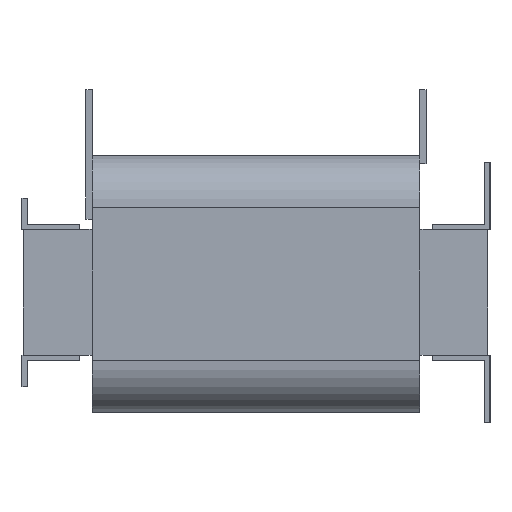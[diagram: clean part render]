
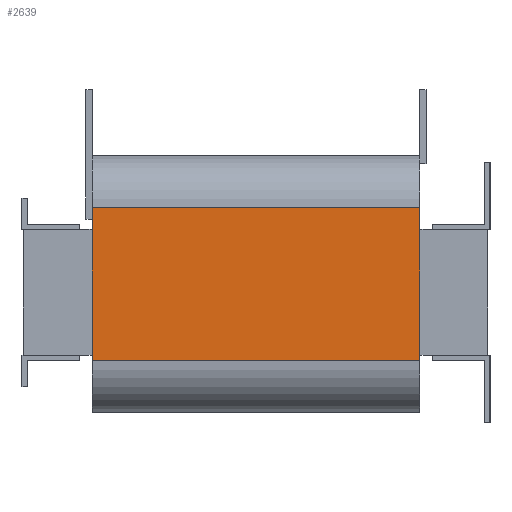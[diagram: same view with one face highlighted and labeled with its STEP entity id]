
A CAD part, left-side view. The second image highlights one B-rep face of the part: STEP entity #2639.
In plain terms, the highlighted planar face has unit normal (-1, 0, 0).
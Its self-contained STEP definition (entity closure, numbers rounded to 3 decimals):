
#114=PLANE('',#2843);
#243=FACE_OUTER_BOUND('',#393,.T.);
#393=EDGE_LOOP('',(#2263,#2264,#2265,#2266));
#670=LINE('',#4142,#996);
#689=LINE('',#4192,#1015);
#690=LINE('',#4195,#1016);
#691=LINE('',#4196,#1017);
#996=VECTOR('',#3383,10.);
#1015=VECTOR('',#3428,10.);
#1016=VECTOR('',#3431,10.);
#1017=VECTOR('',#3432,10.);
#1325=VERTEX_POINT('',#4139);
#1326=VERTEX_POINT('',#4141);
#1344=VERTEX_POINT('',#4190);
#1345=VERTEX_POINT('',#4194);
#1652=EDGE_CURVE('',#1325,#1326,#670,.T.);
#1678=EDGE_CURVE('',#1344,#1325,#689,.T.);
#1679=EDGE_CURVE('',#1344,#1345,#690,.T.);
#1680=EDGE_CURVE('',#1326,#1345,#691,.T.);
#2263=ORIENTED_EDGE('',*,*,#1678,.F.);
#2264=ORIENTED_EDGE('',*,*,#1679,.T.);
#2265=ORIENTED_EDGE('',*,*,#1680,.F.);
#2266=ORIENTED_EDGE('',*,*,#1652,.F.);
#2639=ADVANCED_FACE('',(#243),#114,.T.);
#2843=AXIS2_PLACEMENT_3D('',#4193,#3429,#3430);
#3383=DIRECTION('',(0.,0.,1.));
#3428=DIRECTION('',(0.,1.,0.));
#3429=DIRECTION('center_axis',(-1.,0.,0.));
#3430=DIRECTION('ref_axis',(0.,0.,1.));
#3431=DIRECTION('',(0.,0.,1.));
#3432=DIRECTION('',(0.,-1.,0.));
#4139=CARTESIAN_POINT('',(-280.,382.5,-65.5));
#4141=CARTESIAN_POINT('',(-280.,382.5,81.5));
#4142=CARTESIAN_POINT('',(-280.,382.5,-115.5));
#4190=CARTESIAN_POINT('',(-280.,67.5,-65.5));
#4192=CARTESIAN_POINT('',(-280.,67.5,-65.5));
#4193=CARTESIAN_POINT('Origin',(-280.,67.5,-115.5));
#4194=CARTESIAN_POINT('',(-280.,67.5,81.5));
#4195=CARTESIAN_POINT('',(-280.,67.5,-115.5));
#4196=CARTESIAN_POINT('',(-280.,67.5,81.5));
